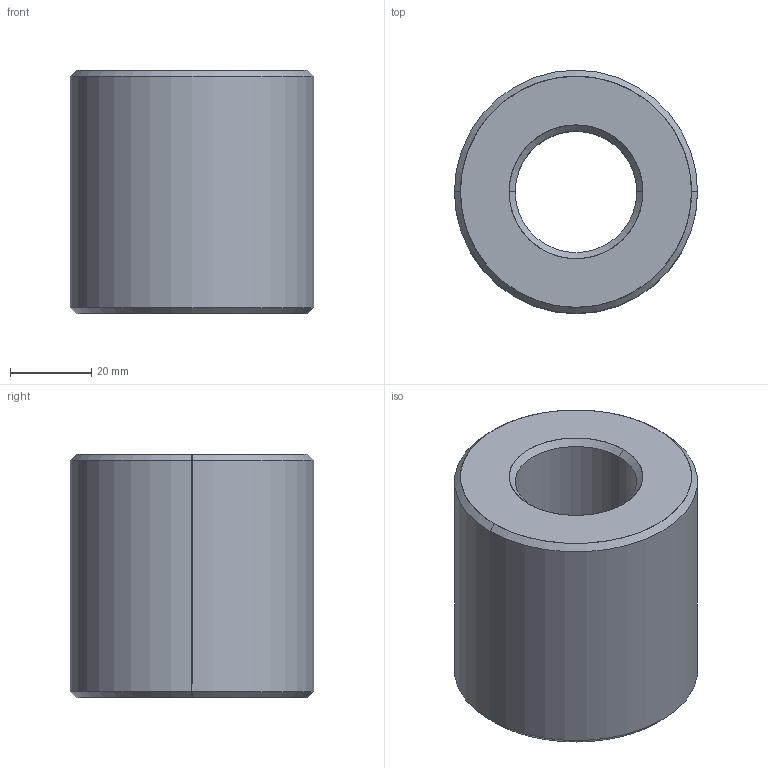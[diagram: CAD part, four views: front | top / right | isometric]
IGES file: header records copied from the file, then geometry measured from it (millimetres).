
Start section: SolidWorks IGES file using analytic representation for surfaces
Global section: file name: C:\Users\ianosborn\Desktop\L1330_v2\L1330_v2_20241024_IGES\L1330.R30-12.igs; native system: SolidWorks 2019; preprocessor: SolidWorks 2019; author: IanOsborn; date: 241024.102833; units: millimetre
Bounding box: 60 x 60 x 60 mm (x, y, z)
Surface area: 20708.9 mm2 (no closed solid volume)
Topology: 0 solids, 0 shells, 14 faces, 304 edges, 304 vertices
Faces by surface type: revolution 12, bspline 2
